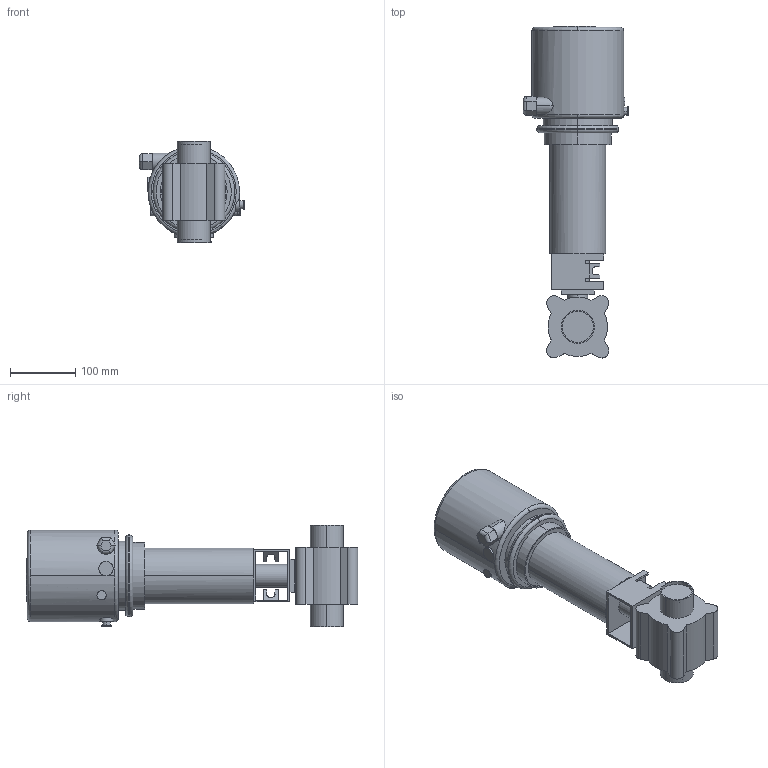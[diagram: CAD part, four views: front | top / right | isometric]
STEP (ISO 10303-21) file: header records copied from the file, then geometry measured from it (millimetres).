
FILE_DESCRIPTION(('Creo Elements/Direct Modeling STEP Export'),'2;1');
FILE_NAME('BLV1-2T-NC-12S-CU4.stp','2019-05-10T 8:22:17',(''),(''),'Creo Elements/Direct Modeling STEP processor for AP214 (Solid Model)','Creo Elements/Direct Modeling 19.0F 14-Feb-2017 (C) Parametric Technology GmbH','');
FILE_SCHEMA(('AUTOMOTIVE_DESIGN { 1 0 10303 214 1 1 1 1 }'));
Length unit declared in the file: millimetre
Products named in the file (2): BLV1-2T-NC-12S-CU4
Assembly tree (1 placements, depth 2):
  BLV1-2T-NC-12S-CU4
    BLV1-2T-NC-12S-CU4
Bounding box: 161.4 x 507.56 x 155.5 mm (x, y, z)
Volume: 4397805.3 mm3; surface area: 267478.5 mm2
Topology: 1 solids, 1 shells, 227 faces, 577 edges, 376 vertices
Faces by surface type: cylinder 109, plane 104, torus 10, extrusion 4
Entity records: 9868 total; most frequent: CARTESIAN_POINT 4418, ORIENTED_EDGE 1156, DIRECTION 1070, EDGE_CURVE 578, AXIS2_PLACEMENT_3D 394, VERTEX_POINT 376, VECTOR 282, LINE 278
